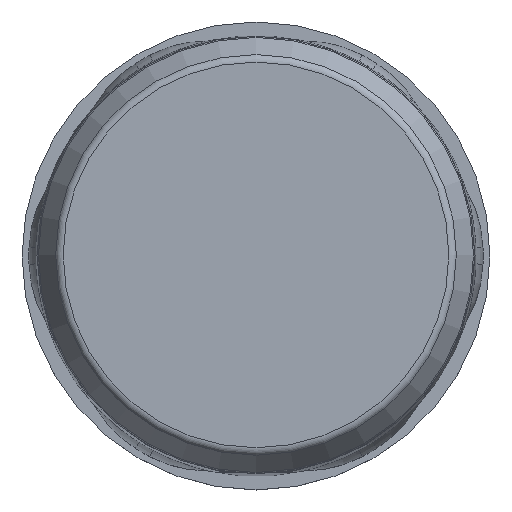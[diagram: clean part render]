
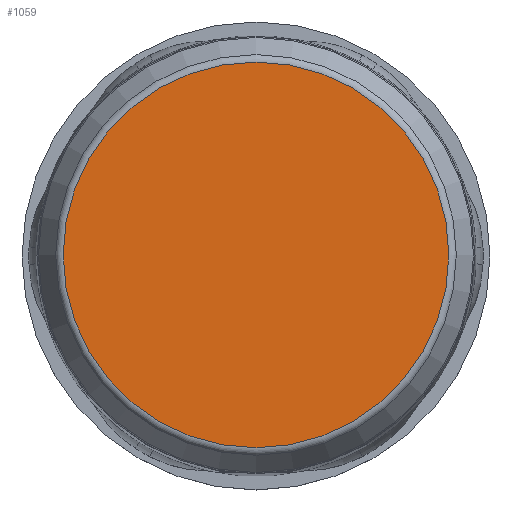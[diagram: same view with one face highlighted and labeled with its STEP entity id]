
A CAD part, top view. The second image highlights one B-rep face of the part: STEP entity #1059.
In plain terms, the highlighted planar face has unit normal (0, 0, 1).
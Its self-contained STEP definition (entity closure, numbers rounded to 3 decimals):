
#46 = DIRECTION ( 'NONE',  ( 0., 0., 1. ) ) ;
#165 = AXIS2_PLACEMENT_3D ( 'NONE', #1095, #46, #1101 ) ;
#188 = CIRCLE ( 'NONE', #660, 4.946 ) ;
#291 = EDGE_CURVE ( 'NONE', #631, #631, #188, .T. ) ;
#368 = DIRECTION ( 'NONE',  ( 1., 0., 0. ) ) ;
#392 = PLANE ( 'NONE',  #165 ) ;
#507 = FACE_OUTER_BOUND ( 'NONE', #1273, .T. ) ;
#631 = VERTEX_POINT ( 'NONE', #1105 ) ;
#660 = AXIS2_PLACEMENT_3D ( 'NONE', #1408, #958, #368 ) ;
#958 = DIRECTION ( 'NONE',  ( 0., 0., -1. ) ) ;
#1059 = ADVANCED_FACE ( 'NONE', ( #507 ), #392, .T. ) ;
#1095 = CARTESIAN_POINT ( 'NONE',  ( -2.586, 0., 16.3 ) ) ;
#1101 = DIRECTION ( 'NONE',  ( 1., 0., 0. ) ) ;
#1105 = CARTESIAN_POINT ( 'NONE',  ( 4.946, 0., 16.3 ) ) ;
#1273 = EDGE_LOOP ( 'NONE', ( #1535 ) ) ;
#1408 = CARTESIAN_POINT ( 'NONE',  ( 0., 0., 16.3 ) ) ;
#1535 = ORIENTED_EDGE ( 'NONE', *, *, #291, .F. ) ;
